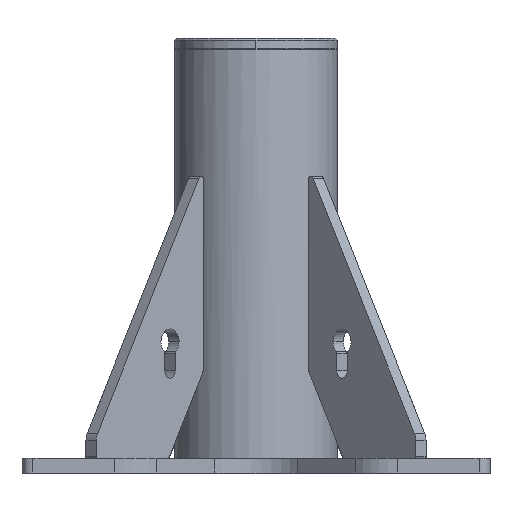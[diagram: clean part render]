
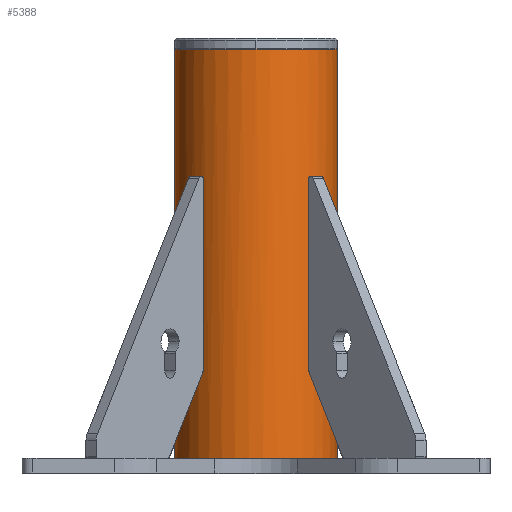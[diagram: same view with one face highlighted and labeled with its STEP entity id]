
A CAD part, top view. The second image highlights one B-rep face of the part: STEP entity #5388.
In plain terms, the highlighted cylindrical face has radius 70.65 mm (diameter 141.3 mm), a partial arc.
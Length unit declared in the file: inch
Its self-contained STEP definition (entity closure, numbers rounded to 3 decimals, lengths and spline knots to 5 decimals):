
#25 = CARTESIAN_POINT ( 'NONE',  ( -2.77138, 0.23712, 13.91912 ) ) ;
#83 = CARTESIAN_POINT ( 'NONE',  ( -2.77096, 0.24192, 13.93485 ) ) ;
#93 = LINE ( 'NONE', #489, #4020 ) ;
#156 = CARTESIAN_POINT ( 'NONE',  ( 2.77099, 0.24164, 13.93537 ) ) ;
#177 = CARTESIAN_POINT ( 'NONE',  ( 2.7815, 0., 13.75 ) ) ;
#180 = CARTESIAN_POINT ( 'NONE',  ( 2.77959, 0.10342, 13.77225 ) ) ;
#249 = DIRECTION ( 'NONE',  ( 0., 0., -1. ) ) ;
#270 = VERTEX_POINT ( 'NONE', #5226 ) ;
#271 = CARTESIAN_POINT ( 'NONE',  ( -2.77872, 0.12518, 13.78298 ) ) ;
#365 = CARTESIAN_POINT ( 'NONE',  ( -2.77306, 0.21655, 13.87481 ) ) ;
#394 = CARTESIAN_POINT ( 'NONE',  ( -2.78035, 0.08033, 13.76312 ) ) ;
#489 = CARTESIAN_POINT ( 'NONE',  ( -2.7815, 0., 14. ) ) ;
#582 = CARTESIAN_POINT ( 'NONE',  ( -2.7815, 0., 0. ) ) ;
#594 = VERTEX_POINT ( 'NONE', #177 ) ;
#600 = EDGE_LOOP ( 'NONE', ( #2874, #4051, #1127, #742, #5346, #1194 ) ) ;
#624 = VERTEX_POINT ( 'NONE', #582 ) ;
#685 = CARTESIAN_POINT ( 'NONE',  ( 2.77024, 0.25, 14. ) ) ;
#697 = CARTESIAN_POINT ( 'NONE',  ( 2.78036, 0.08088, 13.76288 ) ) ;
#742 = ORIENTED_EDGE ( 'NONE', *, *, #4936, .F. ) ;
#1005 = CARTESIAN_POINT ( 'NONE',  ( 2.7793, 0.11078, 13.77573 ) ) ;
#1060 = CARTESIAN_POINT ( 'NONE',  ( 2.7714, 0.23688, 13.91967 ) ) ;
#1127 = ORIENTED_EDGE ( 'NONE', *, *, #1983, .T. ) ;
#1194 = ORIENTED_EDGE ( 'NONE', *, *, #3187, .F. ) ;
#1197 = CARTESIAN_POINT ( 'NONE',  ( -2.77661, 0.16519, 13.81165 ) ) ;
#1344 = CARTESIAN_POINT ( 'NONE',  ( 0., 0., 0. ) ) ;
#1419 = CARTESIAN_POINT ( 'NONE',  ( 2.77514, 0.18835, 13.83481 ) ) ;
#1439 = CARTESIAN_POINT ( 'NONE',  ( 2.7815, 0., 13.75 ) ) ;
#1466 = CARTESIAN_POINT ( 'NONE',  ( 2.77439, 0.1989, 13.84766 ) ) ;
#1486 = AXIS2_PLACEMENT_3D ( 'NONE', #1981, #2398, #1926 ) ;
#1616 = CARTESIAN_POINT ( 'NONE',  ( -2.7815, 0., 13.75 ) ) ;
#1716 = EDGE_CURVE ( 'NONE', #594, #4283, #2361, .T. ) ;
#1838 = CARTESIAN_POINT ( 'NONE',  ( 2.77039, 0.24838, 13.96725 ) ) ;
#1864 = CARTESIAN_POINT ( 'NONE',  ( 2.77304, 0.21702, 13.87482 ) ) ;
#1926 = DIRECTION ( 'NONE',  ( 1., 0., 0. ) ) ;
#1940 = CARTESIAN_POINT ( 'NONE',  ( 2.77163, 0.23409, 13.91186 ) ) ;
#1981 = CARTESIAN_POINT ( 'NONE',  ( 0., 0., 14. ) ) ;
#1983 = EDGE_CURVE ( 'NONE', #4283, #624, #5493, .T. ) ;
#2055 = CARTESIAN_POINT ( 'NONE',  ( 0., 0., 14. ) ) ;
#2063 = CARTESIAN_POINT ( 'NONE',  ( -2.77216, 0.22775, 13.89658 ) ) ;
#2091 = CARTESIAN_POINT ( 'NONE',  ( -2.78011, 0.08814, 13.76591 ) ) ;
#2119 = CARTESIAN_POINT ( 'NONE',  ( -2.77024, 0.25, 14. ) ) ;
#2198 = CARTESIAN_POINT ( 'NONE',  ( -2.77039, 0.24838, 13.96715 ) ) ;
#2267 = VECTOR ( 'NONE', #249, 39.37008 ) ;
#2274 = CARTESIAN_POINT ( 'NONE',  ( 2.77024, 0.25, 13.98348 ) ) ;
#2326 = CARTESIAN_POINT ( 'NONE',  ( 2.77242, 0.22469, 13.88917 ) ) ;
#2361 = LINE ( 'NONE', #4075, #2267 ) ;
#2398 = DIRECTION ( 'NONE',  ( 0., 0., 1. ) ) ;
#2477 = CARTESIAN_POINT ( 'NONE',  ( -2.77515, 0.18824, 13.83468 ) ) ;
#2502 = CARTESIAN_POINT ( 'NONE',  ( -2.77024, 0.25, 14. ) ) ;
#2505 = CARTESIAN_POINT ( 'NONE',  ( -2.78135, 0.03275, 13.75162 ) ) ;
#2693 = CARTESIAN_POINT ( 'NONE',  ( 2.78078, 0.06515, 13.75808 ) ) ;
#2726 = CIRCLE ( 'NONE', #1486, 2.7815 ) ;
#2748 = CARTESIAN_POINT ( 'NONE',  ( 2.77836, 0.13228, 13.78771 ) ) ;
#2808 = CARTESIAN_POINT ( 'NONE',  ( -2.77933, 0.11083, 13.77531 ) ) ;
#2874 = ORIENTED_EDGE ( 'NONE', *, *, #3460, .T. ) ;
#2885 = DIRECTION ( 'NONE',  ( -1., 0., 0. ) ) ;
#3115 = CARTESIAN_POINT ( 'NONE',  ( 2.77734, 0.15275, 13.80142 ) ) ;
#3165 = CARTESIAN_POINT ( 'NONE',  ( 2.77869, 0.12519, 13.78345 ) ) ;
#3187 = EDGE_CURVE ( 'NONE', #4550, #3629, #2726, .T. ) ;
#3316 = CARTESIAN_POINT ( 'NONE',  ( -2.78093, 0.05671, 13.75638 ) ) ;
#3345 = CARTESIAN_POINT ( 'NONE',  ( -2.7815, 0.01652, 13.75 ) ) ;
#3438 = AXIS2_PLACEMENT_3D ( 'NONE', #1344, #5137, #4245 ) ;
#3460 = EDGE_CURVE ( 'NONE', #4550, #594, #4419, .T. ) ;
#3559 = CARTESIAN_POINT ( 'NONE',  ( 2.7815, 0.01652, 13.75 ) ) ;
#3569 = B_SPLINE_CURVE_WITH_KNOTS ( 'NONE', 3,
 ( #1616, #3345, #2505, #3316, #4101, #394, #2091, #2808, #271, #5020, #1197, #2477, #4187, #5356, #365, #4518, #2063, #25, #83, #2198, #3874, #2119 ),
 .UNSPECIFIED., .F., .F.,
 ( 4, 2, 2, 2, 2, 2, 2, 2, 2, 2, 4 ),
 ( 0.00992, 0.01117, 0.01179, 0.01241, 0.01365, 0.01489, 0.01613, 0.01675, 0.01737, 0.01861, 0.01985 ),
 .UNSPECIFIED. ) ;
#3611 = CARTESIAN_POINT ( 'NONE',  ( 2.77661, 0.16532, 13.81176 ) ) ;
#3629 = VERTEX_POINT ( 'NONE', #2502 ) ;
#3695 = CYLINDRICAL_SURFACE ( 'NONE', #4264, 2.7815 ) ;
#3874 = CARTESIAN_POINT ( 'NONE',  ( -2.77024, 0.25, 13.98348 ) ) ;
#3984 = CARTESIAN_POINT ( 'NONE',  ( 2.77081, 0.24362, 13.94329 ) ) ;
#4020 = VECTOR ( 'NONE', #4311, 39.37008 ) ;
#4051 = ORIENTED_EDGE ( 'NONE', *, *, #1716, .T. ) ;
#4075 = CARTESIAN_POINT ( 'NONE',  ( 2.7815, 0., 14. ) ) ;
#4094 = DIRECTION ( 'NONE',  ( 0., 0., -1. ) ) ;
#4101 = CARTESIAN_POINT ( 'NONE',  ( -2.78076, 0.06463, 13.75836 ) ) ;
#4187 = CARTESIAN_POINT ( 'NONE',  ( -2.77442, 0.19858, 13.84725 ) ) ;
#4245 = DIRECTION ( 'NONE',  ( 1., 0., 0. ) ) ;
#4264 = AXIS2_PLACEMENT_3D ( 'NONE', #2055, #4094, #2885 ) ;
#4283 = VERTEX_POINT ( 'NONE', #4619 ) ;
#4311 = DIRECTION ( 'NONE',  ( 0., 0., -1. ) ) ;
#4419 = B_SPLINE_CURVE_WITH_KNOTS ( 'NONE', 3,
 ( #4515, #2274, #1838, #3984, #156, #1060, #1940, #2326, #1864, #1466, #1419, #3611, #3115, #2748, #3165, #1005, #180, #697, #2693, #5272, #3559, #1439 ),
 .UNSPECIFIED., .F., .F.,
 ( 4, 2, 2, 2, 2, 2, 2, 2, 2, 2, 4 ),
 ( 0., 0.00124, 0.00186, 0.00248, 0.00372, 0.00496, 0.0062, 0.00682, 0.00744, 0.00868, 0.00992 ),
 .UNSPECIFIED. ) ;
#4515 = CARTESIAN_POINT ( 'NONE',  ( 2.77024, 0.25, 14. ) ) ;
#4518 = CARTESIAN_POINT ( 'NONE',  ( -2.77245, 0.22427, 13.88922 ) ) ;
#4550 = VERTEX_POINT ( 'NONE', #685 ) ;
#4590 = FACE_OUTER_BOUND ( 'NONE', #600, .T. ) ;
#4619 = CARTESIAN_POINT ( 'NONE',  ( 2.7815, 0., 0. ) ) ;
#4936 = EDGE_CURVE ( 'NONE', #270, #624, #93, .T. ) ;
#5020 = CARTESIAN_POINT ( 'NONE',  ( -2.77736, 0.15234, 13.8011 ) ) ;
#5086 = EDGE_CURVE ( 'NONE', #270, #3629, #3569, .T. ) ;
#5137 = DIRECTION ( 'NONE',  ( 0., 0., 1. ) ) ;
#5226 = CARTESIAN_POINT ( 'NONE',  ( -2.7815, 0., 13.75 ) ) ;
#5272 = CARTESIAN_POINT ( 'NONE',  ( 2.78135, 0.03285, 13.75162 ) ) ;
#5346 = ORIENTED_EDGE ( 'NONE', *, *, #5086, .T. ) ;
#5356 = CARTESIAN_POINT ( 'NONE',  ( -2.77339, 0.21229, 13.86772 ) ) ;
#5388 = ADVANCED_FACE ( 'NONE', ( #4590 ), #3695, .T. ) ;
#5493 = CIRCLE ( 'NONE', #3438, 2.7815 ) ;
